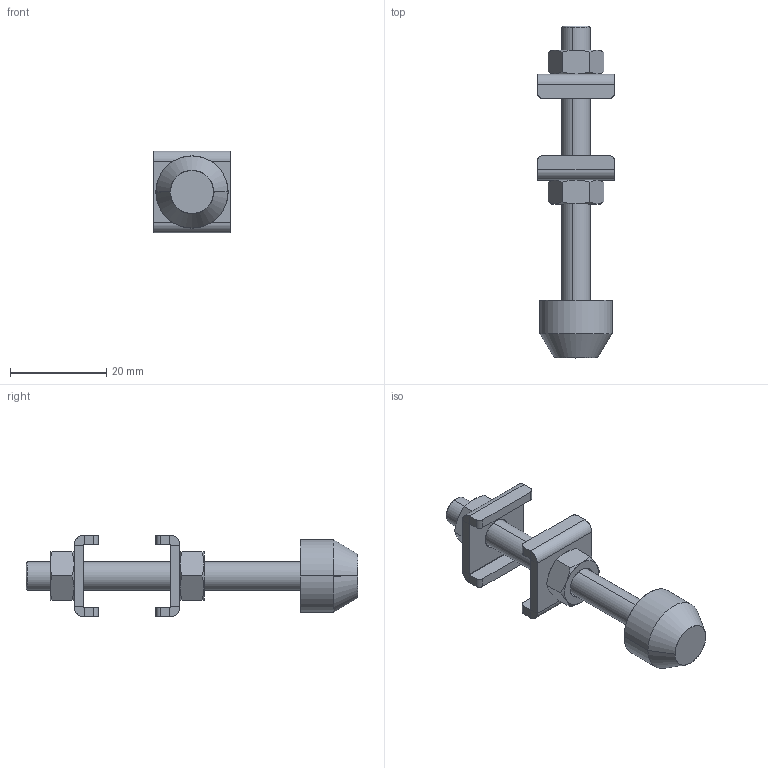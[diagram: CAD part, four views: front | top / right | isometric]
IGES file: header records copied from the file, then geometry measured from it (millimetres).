
Start section: SolidWorks IGES file using analytic representation for surfaces
Global section: file name: C:\Projetos\Ponteiras\BRP\BRP-M6.IGS; native system: SolidWorks 2015; preprocessor: SolidWorks 2015; author: Ricardo; date: 160725.150059; units: millimetre
Bounding box: 16 x 69 x 17 mm (x, y, z)
Surface area: 4488.4 mm2 (no closed solid volume)
Topology: 0 solids, 0 shells, 126 faces, 1432 edges, 1430 vertices
Faces by surface type: revolution 70, bspline 56
